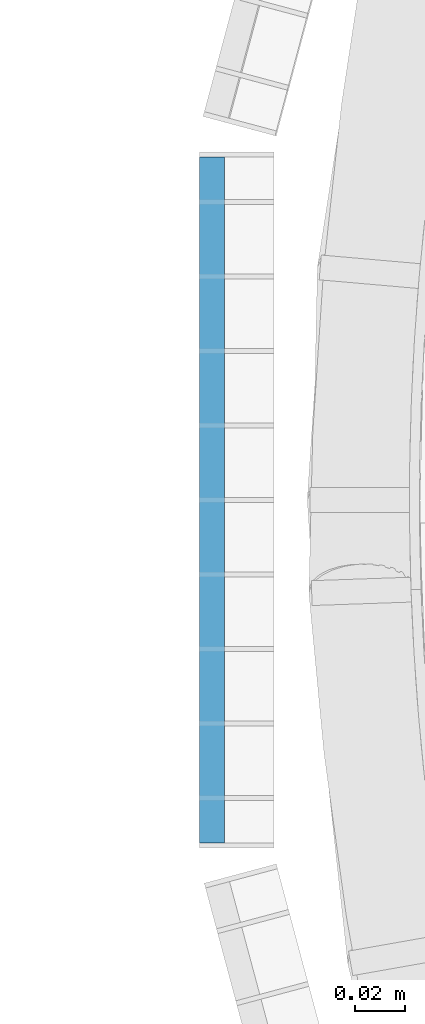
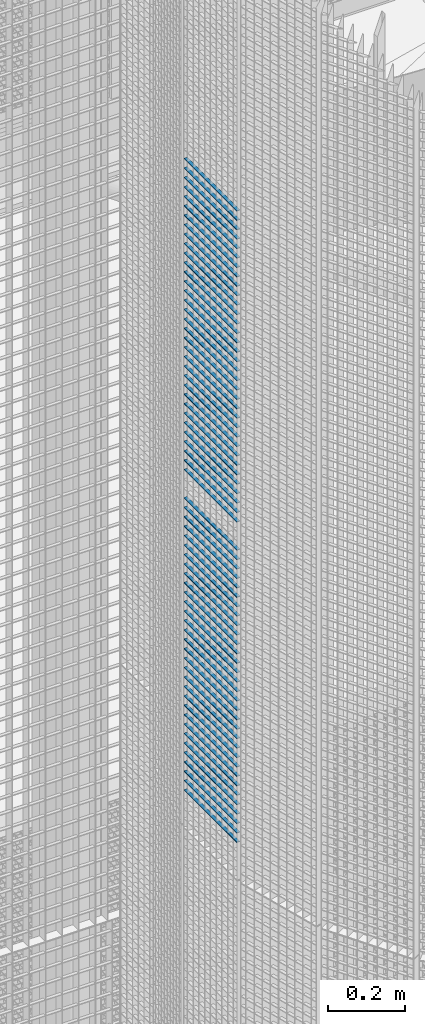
# One storey, part 195 of 1183: 66 beams, 1 element without a shape of its own.
"""IFC2X3 building model written with IfcOpenShell, lengths in millimetres."""

from ifc_helpers import new_model, si_unit, frame, origin_with_axes, origin_2d_with_axis, place, context, subcontext, project, spatial, rectangle, extrude, material, type_object, element, aggregate, save


model = new_model("IFC2X3")

# Units and contexts
model_context = context("Model", 3, precision=1e-05, world=origin_with_axes())
body_context = subcontext(model_context, "Body", "Model", "MODEL_VIEW")
ifc_project = project(units=[si_unit("LENGTHUNIT", "METRE", prefix="MILLI"), si_unit("AREAUNIT", "SQUARE_METRE"), si_unit("VOLUMEUNIT", "CUBIC_METRE"), si_unit("MASSUNIT", "GRAM", prefix="KILO"), si_unit("TIMEUNIT", "SECOND"), si_unit("PLANEANGLEUNIT", "RADIAN"), si_unit("SOLIDANGLEUNIT", "STERADIAN"), si_unit("THERMODYNAMICTEMPERATUREUNIT", "DEGREE_CELSIUS"), si_unit("LUMINOUSINTENSITYUNIT", "LUMEN")], contexts=[model_context])

# Site, building, storey
site_placement = place(None, origin_with_axes())
site = spatial("IfcSite", under=ifc_project, at=site_placement, Name="Undefined", CompositionType="ELEMENT")
building_placement = place(site_placement, origin_with_axes())
building = spatial("IfcBuilding", under=site, at=building_placement, Name="Undefined", CompositionType="ELEMENT")
storey_placement = place(building_placement, origin_with_axes())
storey = spatial("IfcBuildingStorey", under=building, at=storey_placement, Name="Undefined", CompositionType="ELEMENT", Elevation=0.0)

# Assembly, beams
assembly_placement = place(storey_placement, origin_with_axes())
assembly = element("IfcElementAssembly", 1, at=assembly_placement, inside=storey, Name="BORDURE", AssemblyPlace="NOTDEFINED", PredefinedType="NOTDEFINED")
ifc_material = material(Name="STEEL/S235JR")
beam_type = type_object("IfcBeamType", Name="PL2*10", PredefinedType="NOTDEFINED")
beam_1_placement = place(assembly_placement, frame((-1113.47999999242, 137.996003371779, 14130.0), z_axis=(-1.0, 0.0, 0.0), x_axis=(0.0, -1.0, 0.0)))
beam_1 = element("IfcBeam", 2, at=beam_1_placement, type_object=beam_type, material=ifc_material, Name="ENTRETOISE", context=body_context, shape_type="SweptSolid", body=[
    extrude(rectangle(XDim=2.0, YDim=10.0, at=origin_2d_with_axis()), frame((275.999999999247, 9.09494701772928e-13, 1.53210777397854e-14), z_axis=(-1.0, 0.0, 0.0), x_axis=(0.0, -1.0, 0.0)), (0.0, 0.0, 1.0), 276.0),
])
beam_2_placement = place(assembly_placement, frame((-1113.47999999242, 137.996003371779, 14100.0), z_axis=(-1.0, 0.0, 0.0), x_axis=(0.0, -1.0, 0.0)))
beam_2 = element("IfcBeam", 3, at=beam_2_placement, type_object=beam_type, material=ifc_material, Name="ENTRETOISE", context=body_context, shape_type="SweptSolid", body=[
    extrude(rectangle(XDim=2.0, YDim=10.0, at=origin_2d_with_axis()), frame((275.999999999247, 9.09494701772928e-13, 1.53210777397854e-14), z_axis=(-1.0, 0.0, 0.0), x_axis=(0.0, -1.0, 0.0)), (0.0, 0.0, 1.0), 276.0),
])
beam_3_placement = place(assembly_placement, frame((-1113.47999999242, 137.996003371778, 14070.0), z_axis=(-1.0, 0.0, 0.0), x_axis=(0.0, -1.0, 0.0)))
beam_3 = element("IfcBeam", 4, at=beam_3_placement, type_object=beam_type, material=ifc_material, Name="ENTRETOISE", context=body_context, shape_type="SweptSolid", body=[
    extrude(rectangle(XDim=2.0, YDim=10.0, at=origin_2d_with_axis()), frame((275.999999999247, 9.09494701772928e-13, 1.53210777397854e-14), z_axis=(-1.0, 0.0, 0.0), x_axis=(0.0, -1.0, 0.0)), (0.0, 0.0, 1.0), 276.0),
])
beam_4_placement = place(assembly_placement, frame((-1113.47999999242, 137.996003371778, 14040.0), z_axis=(-1.0, 0.0, 0.0), x_axis=(0.0, -1.0, 0.0)))
beam_4 = element("IfcBeam", 5, at=beam_4_placement, type_object=beam_type, material=ifc_material, Name="ENTRETOISE", context=body_context, shape_type="SweptSolid", body=[
    extrude(rectangle(XDim=2.0, YDim=10.0, at=origin_2d_with_axis()), frame((275.999999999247, 9.09494701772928e-13, 1.53210777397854e-14), z_axis=(-1.0, 0.0, 0.0), x_axis=(0.0, -1.0, 0.0)), (0.0, 0.0, 1.0), 276.0),
])
beam_5_placement = place(assembly_placement, frame((-1113.47999999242, 137.996003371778, 14010.0), z_axis=(-1.0, 0.0, 0.0), x_axis=(0.0, -1.0, 0.0)))
beam_5 = element("IfcBeam", 6, at=beam_5_placement, type_object=beam_type, material=ifc_material, Name="ENTRETOISE", context=body_context, shape_type="SweptSolid", body=[
    extrude(rectangle(XDim=2.0, YDim=10.0, at=origin_2d_with_axis()), frame((275.999999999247, 9.09494701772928e-13, 1.53210777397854e-14), z_axis=(-1.0, 0.0, 0.0), x_axis=(0.0, -1.0, 0.0)), (0.0, 0.0, 1.0), 276.0),
])
beam_6_placement = place(assembly_placement, frame((-1113.47999999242, 137.996003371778, 13980.0), z_axis=(-1.0, 0.0, 0.0), x_axis=(0.0, -1.0, 0.0)))
beam_6 = element("IfcBeam", 7, at=beam_6_placement, type_object=beam_type, material=ifc_material, Name="ENTRETOISE", context=body_context, shape_type="SweptSolid", body=[
    extrude(rectangle(XDim=2.0, YDim=10.0, at=origin_2d_with_axis()), frame((275.999999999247, 9.09494701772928e-13, 1.53210777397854e-14), z_axis=(-1.0, 0.0, 0.0), x_axis=(0.0, -1.0, 0.0)), (0.0, 0.0, 1.0), 276.0),
])
beam_7_placement = place(assembly_placement, frame((-1113.47999999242, 137.996003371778, 13950.0), z_axis=(-1.0, 0.0, 0.0), x_axis=(0.0, -1.0, 0.0)))
beam_7 = element("IfcBeam", 8, at=beam_7_placement, type_object=beam_type, material=ifc_material, Name="ENTRETOISE", context=body_context, shape_type="SweptSolid", body=[
    extrude(rectangle(XDim=2.0, YDim=10.0, at=origin_2d_with_axis()), frame((275.999999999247, 9.09494701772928e-13, 1.53210777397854e-14), z_axis=(-1.0, 0.0, 0.0), x_axis=(0.0, -1.0, 0.0)), (0.0, 0.0, 1.0), 276.0),
])
beam_8_placement = place(assembly_placement, frame((-1113.47999999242, 137.996003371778, 13920.0), z_axis=(-1.0, 0.0, 0.0), x_axis=(0.0, -1.0, 0.0)))
beam_8 = element("IfcBeam", 9, at=beam_8_placement, type_object=beam_type, material=ifc_material, Name="ENTRETOISE", context=body_context, shape_type="SweptSolid", body=[
    extrude(rectangle(XDim=2.0, YDim=10.0, at=origin_2d_with_axis()), frame((275.999999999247, 9.09494701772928e-13, 1.53210777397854e-14), z_axis=(-1.0, 0.0, 0.0), x_axis=(0.0, -1.0, 0.0)), (0.0, 0.0, 1.0), 276.0),
])
beam_9_placement = place(assembly_placement, frame((-1113.47999999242, 137.996003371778, 13890.0), z_axis=(-1.0, 0.0, 0.0), x_axis=(0.0, -1.0, 0.0)))
beam_9 = element("IfcBeam", 10, at=beam_9_placement, type_object=beam_type, material=ifc_material, Name="ENTRETOISE", context=body_context, shape_type="SweptSolid", body=[
    extrude(rectangle(XDim=2.0, YDim=10.0, at=origin_2d_with_axis()), frame((275.999999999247, 9.09494701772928e-13, 1.53210777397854e-14), z_axis=(-1.0, 0.0, 0.0), x_axis=(0.0, -1.0, 0.0)), (0.0, 0.0, 1.0), 276.0),
])
beam_10_placement = place(assembly_placement, frame((-1113.47999999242, 137.996003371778, 13860.0), z_axis=(-1.0, 0.0, 0.0), x_axis=(0.0, -1.0, 0.0)))
beam_10 = element("IfcBeam", 11, at=beam_10_placement, type_object=beam_type, material=ifc_material, Name="ENTRETOISE", context=body_context, shape_type="SweptSolid", body=[
    extrude(rectangle(XDim=2.0, YDim=10.0, at=origin_2d_with_axis()), frame((275.999999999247, 9.09494701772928e-13, 1.53210777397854e-14), z_axis=(-1.0, 0.0, 0.0), x_axis=(0.0, -1.0, 0.0)), (0.0, 0.0, 1.0), 276.0),
])
beam_11_placement = place(assembly_placement, frame((-1113.47999999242, 137.996003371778, 13830.0), z_axis=(-1.0, 0.0, 0.0), x_axis=(0.0, -1.0, 0.0)))
beam_11 = element("IfcBeam", 12, at=beam_11_placement, type_object=beam_type, material=ifc_material, Name="ENTRETOISE", context=body_context, shape_type="SweptSolid", body=[
    extrude(rectangle(XDim=2.0, YDim=10.0, at=origin_2d_with_axis()), frame((275.999999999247, 9.09494701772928e-13, 1.53210777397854e-14), z_axis=(-1.0, 0.0, 0.0), x_axis=(0.0, -1.0, 0.0)), (0.0, 0.0, 1.0), 276.0),
])
beam_12_placement = place(assembly_placement, frame((-1113.47999999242, 137.996003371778, 13800.0), z_axis=(-1.0, 0.0, 0.0), x_axis=(0.0, -1.0, 0.0)))
beam_12 = element("IfcBeam", 13, at=beam_12_placement, type_object=beam_type, material=ifc_material, Name="ENTRETOISE", context=body_context, shape_type="SweptSolid", body=[
    extrude(rectangle(XDim=2.0, YDim=10.0, at=origin_2d_with_axis()), frame((275.999999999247, 9.09494701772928e-13, 1.53210777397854e-14), z_axis=(-1.0, 0.0, 0.0), x_axis=(0.0, -1.0, 0.0)), (0.0, 0.0, 1.0), 276.0),
])
beam_13_placement = place(assembly_placement, frame((-1113.47999999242, 137.996003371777, 13770.0), z_axis=(-1.0, 0.0, 0.0), x_axis=(0.0, -1.0, 0.0)))
beam_13 = element("IfcBeam", 14, at=beam_13_placement, type_object=beam_type, material=ifc_material, Name="ENTRETOISE", context=body_context, shape_type="SweptSolid", body=[
    extrude(rectangle(XDim=2.0, YDim=10.0, at=origin_2d_with_axis()), frame((275.999999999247, 9.09494701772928e-13, 1.53210777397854e-14), z_axis=(-1.0, 0.0, 0.0), x_axis=(0.0, -1.0, 0.0)), (0.0, 0.0, 1.0), 276.0),
])
beam_14_placement = place(assembly_placement, frame((-1113.47999999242, 137.996003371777, 13740.0), z_axis=(-1.0, 0.0, 0.0), x_axis=(0.0, -1.0, 0.0)))
beam_14 = element("IfcBeam", 15, at=beam_14_placement, type_object=beam_type, material=ifc_material, Name="ENTRETOISE", context=body_context, shape_type="SweptSolid", body=[
    extrude(rectangle(XDim=2.0, YDim=10.0, at=origin_2d_with_axis()), frame((275.999999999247, 9.09494701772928e-13, 1.53210777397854e-14), z_axis=(-1.0, 0.0, 0.0), x_axis=(0.0, -1.0, 0.0)), (0.0, 0.0, 1.0), 276.0),
])
beam_15_placement = place(assembly_placement, frame((-1113.47999999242, 137.996003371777, 13710.0), z_axis=(-1.0, 0.0, 0.0), x_axis=(0.0, -1.0, 0.0)))
beam_15 = element("IfcBeam", 16, at=beam_15_placement, type_object=beam_type, material=ifc_material, Name="ENTRETOISE", context=body_context, shape_type="SweptSolid", body=[
    extrude(rectangle(XDim=2.0, YDim=10.0, at=origin_2d_with_axis()), frame((275.999999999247, 9.09494701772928e-13, 1.53210777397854e-14), z_axis=(-1.0, 0.0, 0.0), x_axis=(0.0, -1.0, 0.0)), (0.0, 0.0, 1.0), 276.0),
])
beam_16_placement = place(assembly_placement, frame((-1113.47999999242, 137.996003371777, 13680.0), z_axis=(-1.0, 0.0, 0.0), x_axis=(0.0, -1.0, 0.0)))
beam_16 = element("IfcBeam", 17, at=beam_16_placement, type_object=beam_type, material=ifc_material, Name="ENTRETOISE", context=body_context, shape_type="SweptSolid", body=[
    extrude(rectangle(XDim=2.0, YDim=10.0, at=origin_2d_with_axis()), frame((275.999999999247, 9.09494701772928e-13, 1.53210777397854e-14), z_axis=(-1.0, 0.0, 0.0), x_axis=(0.0, -1.0, 0.0)), (0.0, 0.0, 1.0), 276.0),
])
beam_17_placement = place(assembly_placement, frame((-1113.47999999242, 137.996003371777, 13650.0), z_axis=(-1.0, 0.0, 0.0), x_axis=(0.0, -1.0, 0.0)))
beam_17 = element("IfcBeam", 18, at=beam_17_placement, type_object=beam_type, material=ifc_material, Name="ENTRETOISE", context=body_context, shape_type="SweptSolid", body=[
    extrude(rectangle(XDim=2.0, YDim=10.0, at=origin_2d_with_axis()), frame((275.999999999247, 9.09494701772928e-13, 1.53210777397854e-14), z_axis=(-1.0, 0.0, 0.0), x_axis=(0.0, -1.0, 0.0)), (0.0, 0.0, 1.0), 276.0),
])
beam_18_placement = place(assembly_placement, frame((-1113.47999999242, 137.996003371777, 13620.0), z_axis=(-1.0, 0.0, 0.0), x_axis=(0.0, -1.0, 0.0)))
beam_18 = element("IfcBeam", 19, at=beam_18_placement, type_object=beam_type, material=ifc_material, Name="ENTRETOISE", context=body_context, shape_type="SweptSolid", body=[
    extrude(rectangle(XDim=2.0, YDim=10.0, at=origin_2d_with_axis()), frame((275.999999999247, 9.09494701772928e-13, 1.53210777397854e-14), z_axis=(-1.0, 0.0, 0.0), x_axis=(0.0, -1.0, 0.0)), (0.0, 0.0, 1.0), 276.0),
])
beam_19_placement = place(assembly_placement, frame((-1113.47999999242, 137.996003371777, 13590.0), z_axis=(-1.0, 0.0, 0.0), x_axis=(0.0, -1.0, 0.0)))
beam_19 = element("IfcBeam", 20, at=beam_19_placement, type_object=beam_type, material=ifc_material, Name="ENTRETOISE", context=body_context, shape_type="SweptSolid", body=[
    extrude(rectangle(XDim=2.0, YDim=10.0, at=origin_2d_with_axis()), frame((275.999999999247, 9.09494701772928e-13, 1.53210777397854e-14), z_axis=(-1.0, 0.0, 0.0), x_axis=(0.0, -1.0, 0.0)), (0.0, 0.0, 1.0), 276.0),
])
beam_20_placement = place(assembly_placement, frame((-1113.47999999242, 137.996003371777, 13560.0), z_axis=(-1.0, 0.0, 0.0), x_axis=(0.0, -1.0, 0.0)))
beam_20 = element("IfcBeam", 21, at=beam_20_placement, type_object=beam_type, material=ifc_material, Name="ENTRETOISE", context=body_context, shape_type="SweptSolid", body=[
    extrude(rectangle(XDim=2.0, YDim=10.0, at=origin_2d_with_axis()), frame((275.999999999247, 9.09494701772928e-13, 1.53210777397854e-14), z_axis=(-1.0, 0.0, 0.0), x_axis=(0.0, -1.0, 0.0)), (0.0, 0.0, 1.0), 276.0),
])
beam_21_placement = place(assembly_placement, frame((-1113.47999999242, 137.996003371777, 13530.0), z_axis=(-1.0, 0.0, 0.0), x_axis=(0.0, -1.0, 0.0)))
beam_21 = element("IfcBeam", 22, at=beam_21_placement, type_object=beam_type, material=ifc_material, Name="ENTRETOISE", context=body_context, shape_type="SweptSolid", body=[
    extrude(rectangle(XDim=2.0, YDim=10.0, at=origin_2d_with_axis()), frame((275.999999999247, 9.09494701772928e-13, 1.53210777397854e-14), z_axis=(-1.0, 0.0, 0.0), x_axis=(0.0, -1.0, 0.0)), (0.0, 0.0, 1.0), 276.0),
])
beam_22_placement = place(assembly_placement, frame((-1113.47999999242, 137.996003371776, 13500.0), z_axis=(-1.0, 0.0, 0.0), x_axis=(0.0, -1.0, 0.0)))
beam_22 = element("IfcBeam", 23, at=beam_22_placement, type_object=beam_type, material=ifc_material, Name="ENTRETOISE", context=body_context, shape_type="SweptSolid", body=[
    extrude(rectangle(XDim=2.0, YDim=10.0, at=origin_2d_with_axis()), frame((275.999999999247, 9.09494701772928e-13, 1.53210777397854e-14), z_axis=(-1.0, 0.0, 0.0), x_axis=(0.0, -1.0, 0.0)), (0.0, 0.0, 1.0), 276.0),
])
beam_23_placement = place(assembly_placement, frame((-1113.47999999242, 137.996003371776, 13470.0), z_axis=(-1.0, 0.0, 0.0), x_axis=(0.0, -1.0, 0.0)))
beam_23 = element("IfcBeam", 24, at=beam_23_placement, type_object=beam_type, material=ifc_material, Name="ENTRETOISE", context=body_context, shape_type="SweptSolid", body=[
    extrude(rectangle(XDim=2.0, YDim=10.0, at=origin_2d_with_axis()), frame((275.999999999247, 9.09494701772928e-13, 1.53210777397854e-14), z_axis=(-1.0, 0.0, 0.0), x_axis=(0.0, -1.0, 0.0)), (0.0, 0.0, 1.0), 276.0),
])
beam_24_placement = place(assembly_placement, frame((-1113.47999999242, 137.996003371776, 13440.0), z_axis=(-1.0, 0.0, 0.0), x_axis=(0.0, -1.0, 0.0)))
beam_24 = element("IfcBeam", 25, at=beam_24_placement, type_object=beam_type, material=ifc_material, Name="ENTRETOISE", context=body_context, shape_type="SweptSolid", body=[
    extrude(rectangle(XDim=2.0, YDim=10.0, at=origin_2d_with_axis()), frame((275.999999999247, 9.09494701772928e-13, 1.53210777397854e-14), z_axis=(-1.0, 0.0, 0.0), x_axis=(0.0, -1.0, 0.0)), (0.0, 0.0, 1.0), 276.0),
])
beam_25_placement = place(assembly_placement, frame((-1113.47999999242, 137.996003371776, 13410.0), z_axis=(-1.0, 0.0, 0.0), x_axis=(0.0, -1.0, 0.0)))
beam_25 = element("IfcBeam", 26, at=beam_25_placement, type_object=beam_type, material=ifc_material, Name="ENTRETOISE", context=body_context, shape_type="SweptSolid", body=[
    extrude(rectangle(XDim=2.0, YDim=10.0, at=origin_2d_with_axis()), frame((275.999999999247, 9.09494701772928e-13, 1.53210777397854e-14), z_axis=(-1.0, 0.0, 0.0), x_axis=(0.0, -1.0, 0.0)), (0.0, 0.0, 1.0), 276.0),
])
beam_26_placement = place(assembly_placement, frame((-1113.47999999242, 137.996003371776, 13380.0), z_axis=(-1.0, 0.0, 0.0), x_axis=(0.0, -1.0, 0.0)))
beam_26 = element("IfcBeam", 27, at=beam_26_placement, type_object=beam_type, material=ifc_material, Name="ENTRETOISE", context=body_context, shape_type="SweptSolid", body=[
    extrude(rectangle(XDim=2.0, YDim=10.0, at=origin_2d_with_axis()), frame((275.999999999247, 9.09494701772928e-13, 1.53210777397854e-14), z_axis=(-1.0, 0.0, 0.0), x_axis=(0.0, -1.0, 0.0)), (0.0, 0.0, 1.0), 276.0),
])
beam_27_placement = place(assembly_placement, frame((-1113.47999999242, 137.996003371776, 13350.0), z_axis=(-1.0, 0.0, 0.0), x_axis=(0.0, -1.0, 0.0)))
beam_27 = element("IfcBeam", 28, at=beam_27_placement, type_object=beam_type, material=ifc_material, Name="ENTRETOISE", context=body_context, shape_type="SweptSolid", body=[
    extrude(rectangle(XDim=2.0, YDim=10.0, at=origin_2d_with_axis()), frame((275.999999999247, 9.09494701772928e-13, 1.53210777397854e-14), z_axis=(-1.0, 0.0, 0.0), x_axis=(0.0, -1.0, 0.0)), (0.0, 0.0, 1.0), 276.0),
])
beam_28_placement = place(assembly_placement, frame((-1113.47999999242, 137.996003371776, 13320.0), z_axis=(-1.0, 0.0, 0.0), x_axis=(0.0, -1.0, 0.0)))
beam_28 = element("IfcBeam", 29, at=beam_28_placement, type_object=beam_type, material=ifc_material, Name="ENTRETOISE", context=body_context, shape_type="SweptSolid", body=[
    extrude(rectangle(XDim=2.0, YDim=10.0, at=origin_2d_with_axis()), frame((275.999999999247, 9.09494701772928e-13, 1.53210777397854e-14), z_axis=(-1.0, 0.0, 0.0), x_axis=(0.0, -1.0, 0.0)), (0.0, 0.0, 1.0), 276.0),
])
beam_29_placement = place(assembly_placement, frame((-1113.47999999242, 137.996003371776, 13290.0), z_axis=(-1.0, 0.0, 0.0), x_axis=(0.0, -1.0, 0.0)))
beam_29 = element("IfcBeam", 30, at=beam_29_placement, type_object=beam_type, material=ifc_material, Name="ENTRETOISE", context=body_context, shape_type="SweptSolid", body=[
    extrude(rectangle(XDim=2.0, YDim=10.0, at=origin_2d_with_axis()), frame((275.999999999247, 9.09494701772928e-13, 1.53210777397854e-14), z_axis=(-1.0, 0.0, 0.0), x_axis=(0.0, -1.0, 0.0)), (0.0, 0.0, 1.0), 276.0),
])
beam_30_placement = place(assembly_placement, frame((-1113.47999999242, 137.996003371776, 13260.0), z_axis=(-1.0, 0.0, 0.0), x_axis=(0.0, -1.0, 0.0)))
beam_30 = element("IfcBeam", 31, at=beam_30_placement, type_object=beam_type, material=ifc_material, Name="ENTRETOISE", context=body_context, shape_type="SweptSolid", body=[
    extrude(rectangle(XDim=2.0, YDim=10.0, at=origin_2d_with_axis()), frame((275.999999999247, 9.09494701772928e-13, 1.53210777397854e-14), z_axis=(-1.0, 0.0, 0.0), x_axis=(0.0, -1.0, 0.0)), (0.0, 0.0, 1.0), 276.0),
])
beam_31_placement = place(assembly_placement, frame((-1113.47999999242, 137.996003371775, 13230.0), z_axis=(-1.0, 0.0, 0.0), x_axis=(0.0, -1.0, 0.0)))
beam_31 = element("IfcBeam", 32, at=beam_31_placement, type_object=beam_type, material=ifc_material, Name="ENTRETOISE", context=body_context, shape_type="SweptSolid", body=[
    extrude(rectangle(XDim=2.0, YDim=10.0, at=origin_2d_with_axis()), frame((275.999999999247, 9.09494701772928e-13, 1.53210777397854e-14), z_axis=(-1.0, 0.0, 0.0), x_axis=(0.0, -1.0, 0.0)), (0.0, 0.0, 1.0), 276.0),
])
beam_32_placement = place(assembly_placement, frame((-1113.47999999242, 137.996003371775, 13200.0), z_axis=(-1.0, 0.0, 0.0), x_axis=(0.0, -1.0, 0.0)))
beam_32 = element("IfcBeam", 33, at=beam_32_placement, type_object=beam_type, material=ifc_material, Name="ENTRETOISE", context=body_context, shape_type="SweptSolid", body=[
    extrude(rectangle(XDim=2.0, YDim=10.0, at=origin_2d_with_axis()), frame((275.999999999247, 9.09494701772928e-13, 1.53210777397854e-14), z_axis=(-1.0, 0.0, 0.0), x_axis=(0.0, -1.0, 0.0)), (0.0, 0.0, 1.0), 276.0),
])
beam_33_placement = place(assembly_placement, frame((-1113.47999999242, 137.996003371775, 13170.0), z_axis=(-1.0, 0.0, 0.0), x_axis=(0.0, -1.0, 0.0)))
beam_33 = element("IfcBeam", 34, at=beam_33_placement, type_object=beam_type, material=ifc_material, Name="ENTRETOISE", context=body_context, shape_type="SweptSolid", body=[
    extrude(rectangle(XDim=2.0, YDim=10.0, at=origin_2d_with_axis()), frame((275.999999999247, 9.09494701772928e-13, 1.53210777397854e-14), z_axis=(-1.0, 0.0, 0.0), x_axis=(0.0, -1.0, 0.0)), (0.0, 0.0, 1.0), 276.0),
])
beam_34_placement = place(assembly_placement, frame((-1113.47999999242, 137.996003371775, 13140.0), z_axis=(-1.0, 0.0, 0.0), x_axis=(0.0, -1.0, 0.0)))
beam_34 = element("IfcBeam", 35, at=beam_34_placement, type_object=beam_type, material=ifc_material, Name="ENTRETOISE", context=body_context, shape_type="SweptSolid", body=[
    extrude(rectangle(XDim=2.0, YDim=10.0, at=origin_2d_with_axis()), frame((275.999999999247, 9.09494701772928e-13, 1.53210777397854e-14), z_axis=(-1.0, 0.0, 0.0), x_axis=(0.0, -1.0, 0.0)), (0.0, 0.0, 1.0), 276.0),
])
beam_35_placement = place(assembly_placement, frame((-1113.47999999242, 137.996003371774, 12720.0), z_axis=(-1.0, 0.0, 0.0), x_axis=(0.0, -1.0, 0.0)))
beam_35 = element("IfcBeam", 36, at=beam_35_placement, type_object=beam_type, material=ifc_material, Name="ENTRETOISE", context=body_context, shape_type="SweptSolid", body=[
    extrude(rectangle(XDim=2.0, YDim=10.0, at=origin_2d_with_axis()), frame((275.999999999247, 9.09494701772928e-13, 1.53210777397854e-14), z_axis=(-1.0, 0.0, 0.0), x_axis=(0.0, -1.0, 0.0)), (0.0, 0.0, 1.0), 276.0),
])
beam_36_placement = place(assembly_placement, frame((-1113.47999999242, 137.996003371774, 12690.0), z_axis=(-1.0, 0.0, 0.0), x_axis=(0.0, -1.0, 0.0)))
beam_36 = element("IfcBeam", 37, at=beam_36_placement, type_object=beam_type, material=ifc_material, Name="ENTRETOISE", context=body_context, shape_type="SweptSolid", body=[
    extrude(rectangle(XDim=2.0, YDim=10.0, at=origin_2d_with_axis()), frame((275.999999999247, 9.09494701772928e-13, 1.53210777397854e-14), z_axis=(-1.0, 0.0, 0.0), x_axis=(0.0, -1.0, 0.0)), (0.0, 0.0, 1.0), 276.0),
])
beam_37_placement = place(assembly_placement, frame((-1113.47999999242, 137.996003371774, 12750.0), z_axis=(-1.0, 0.0, 0.0), x_axis=(0.0, -1.0, 0.0)))
beam_37 = element("IfcBeam", 38, at=beam_37_placement, type_object=beam_type, material=ifc_material, Name="ENTRETOISE", context=body_context, shape_type="SweptSolid", body=[
    extrude(rectangle(XDim=2.0, YDim=10.0, at=origin_2d_with_axis()), frame((275.999999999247, 9.09494701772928e-13, 1.53210777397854e-14), z_axis=(-1.0, 0.0, 0.0), x_axis=(0.0, -1.0, 0.0)), (0.0, 0.0, 1.0), 276.0),
])
beam_38_placement = place(assembly_placement, frame((-1113.47999999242, 137.996003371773, 12660.0), z_axis=(-1.0, 0.0, 0.0), x_axis=(0.0, -1.0, 0.0)))
beam_38 = element("IfcBeam", 39, at=beam_38_placement, type_object=beam_type, material=ifc_material, Name="ENTRETOISE", context=body_context, shape_type="SweptSolid", body=[
    extrude(rectangle(XDim=2.0, YDim=10.0, at=origin_2d_with_axis()), frame((275.999999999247, 9.09494701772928e-13, 1.53210777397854e-14), z_axis=(-1.0, 0.0, 0.0), x_axis=(0.0, -1.0, 0.0)), (0.0, 0.0, 1.0), 276.0),
])
beam_39_placement = place(assembly_placement, frame((-1113.47999999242, 137.996003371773, 12630.0), z_axis=(-1.0, 0.0, 0.0), x_axis=(0.0, -1.0, 0.0)))
beam_39 = element("IfcBeam", 40, at=beam_39_placement, type_object=beam_type, material=ifc_material, Name="ENTRETOISE", context=body_context, shape_type="SweptSolid", body=[
    extrude(rectangle(XDim=2.0, YDim=10.0, at=origin_2d_with_axis()), frame((275.999999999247, 9.09494701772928e-13, 1.53210777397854e-14), z_axis=(-1.0, 0.0, 0.0), x_axis=(0.0, -1.0, 0.0)), (0.0, 0.0, 1.0), 276.0),
])
beam_40_placement = place(assembly_placement, frame((-1113.47999999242, 137.996003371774, 12780.0), z_axis=(-1.0, 0.0, 0.0), x_axis=(0.0, -1.0, 0.0)))
beam_40 = element("IfcBeam", 41, at=beam_40_placement, type_object=beam_type, material=ifc_material, Name="ENTRETOISE", context=body_context, shape_type="SweptSolid", body=[
    extrude(rectangle(XDim=2.0, YDim=10.0, at=origin_2d_with_axis()), frame((275.999999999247, 9.09494701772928e-13, 1.53210777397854e-14), z_axis=(-1.0, 0.0, 0.0), x_axis=(0.0, -1.0, 0.0)), (0.0, 0.0, 1.0), 276.0),
])
beam_41_placement = place(assembly_placement, frame((-1113.47999999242, 137.996003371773, 12600.0), z_axis=(-1.0, 0.0, 0.0), x_axis=(0.0, -1.0, 0.0)))
beam_41 = element("IfcBeam", 42, at=beam_41_placement, type_object=beam_type, material=ifc_material, Name="ENTRETOISE", context=body_context, shape_type="SweptSolid", body=[
    extrude(rectangle(XDim=2.0, YDim=10.0, at=origin_2d_with_axis()), frame((275.999999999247, 9.09494701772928e-13, 1.53210777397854e-14), z_axis=(-1.0, 0.0, 0.0), x_axis=(0.0, -1.0, 0.0)), (0.0, 0.0, 1.0), 276.0),
])
beam_42_placement = place(assembly_placement, frame((-1113.47999999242, 137.996003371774, 12810.0), z_axis=(-1.0, 0.0, 0.0), x_axis=(0.0, -1.0, 0.0)))
beam_42 = element("IfcBeam", 43, at=beam_42_placement, type_object=beam_type, material=ifc_material, Name="ENTRETOISE", context=body_context, shape_type="SweptSolid", body=[
    extrude(rectangle(XDim=2.0, YDim=10.0, at=origin_2d_with_axis()), frame((275.999999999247, 9.09494701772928e-13, 1.53210777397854e-14), z_axis=(-1.0, 0.0, 0.0), x_axis=(0.0, -1.0, 0.0)), (0.0, 0.0, 1.0), 276.0),
])
beam_43_placement = place(assembly_placement, frame((-1113.47999999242, 137.996003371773, 12570.0), z_axis=(-1.0, 0.0, 0.0), x_axis=(0.0, -1.0, 0.0)))
beam_43 = element("IfcBeam", 44, at=beam_43_placement, type_object=beam_type, material=ifc_material, Name="ENTRETOISE", context=body_context, shape_type="SweptSolid", body=[
    extrude(rectangle(XDim=2.0, YDim=10.0, at=origin_2d_with_axis()), frame((275.999999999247, 9.09494701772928e-13, 1.53210777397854e-14), z_axis=(-1.0, 0.0, 0.0), x_axis=(0.0, -1.0, 0.0)), (0.0, 0.0, 1.0), 276.0),
])
beam_44_placement = place(assembly_placement, frame((-1113.47999999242, 137.996003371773, 12540.0), z_axis=(-1.0, 0.0, 0.0), x_axis=(0.0, -1.0, 0.0)))
beam_44 = element("IfcBeam", 45, at=beam_44_placement, type_object=beam_type, material=ifc_material, Name="ENTRETOISE", context=body_context, shape_type="SweptSolid", body=[
    extrude(rectangle(XDim=2.0, YDim=10.0, at=origin_2d_with_axis()), frame((275.999999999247, 9.09494701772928e-13, 1.53210777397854e-14), z_axis=(-1.0, 0.0, 0.0), x_axis=(0.0, -1.0, 0.0)), (0.0, 0.0, 1.0), 276.0),
])
beam_45_placement = place(assembly_placement, frame((-1113.47999999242, 137.996003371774, 12840.0), z_axis=(-1.0, 0.0, 0.0), x_axis=(0.0, -1.0, 0.0)))
beam_45 = element("IfcBeam", 46, at=beam_45_placement, type_object=beam_type, material=ifc_material, Name="ENTRETOISE", context=body_context, shape_type="SweptSolid", body=[
    extrude(rectangle(XDim=2.0, YDim=10.0, at=origin_2d_with_axis()), frame((275.999999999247, 9.09494701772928e-13, 1.53210777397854e-14), z_axis=(-1.0, 0.0, 0.0), x_axis=(0.0, -1.0, 0.0)), (0.0, 0.0, 1.0), 276.0),
])
beam_46_placement = place(assembly_placement, frame((-1113.47999999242, 137.996003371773, 12510.0), z_axis=(-1.0, 0.0, 0.0), x_axis=(0.0, -1.0, 0.0)))
beam_46 = element("IfcBeam", 47, at=beam_46_placement, type_object=beam_type, material=ifc_material, Name="ENTRETOISE", context=body_context, shape_type="SweptSolid", body=[
    extrude(rectangle(XDim=2.0, YDim=10.0, at=origin_2d_with_axis()), frame((275.999999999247, 9.09494701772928e-13, 1.53210777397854e-14), z_axis=(-1.0, 0.0, 0.0), x_axis=(0.0, -1.0, 0.0)), (0.0, 0.0, 1.0), 276.0),
])
beam_47_placement = place(assembly_placement, frame((-1113.47999999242, 137.996003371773, 12480.0), z_axis=(-1.0, 0.0, 0.0), x_axis=(0.0, -1.0, 0.0)))
beam_47 = element("IfcBeam", 48, at=beam_47_placement, type_object=beam_type, material=ifc_material, Name="ENTRETOISE", context=body_context, shape_type="SweptSolid", body=[
    extrude(rectangle(XDim=2.0, YDim=10.0, at=origin_2d_with_axis()), frame((275.999999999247, 9.09494701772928e-13, 1.53210777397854e-14), z_axis=(-1.0, 0.0, 0.0), x_axis=(0.0, -1.0, 0.0)), (0.0, 0.0, 1.0), 276.0),
])
beam_48_placement = place(assembly_placement, frame((-1113.47999999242, 137.996003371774, 12870.0), z_axis=(-1.0, 0.0, 0.0), x_axis=(0.0, -1.0, 0.0)))
beam_48 = element("IfcBeam", 49, at=beam_48_placement, type_object=beam_type, material=ifc_material, Name="ENTRETOISE", context=body_context, shape_type="SweptSolid", body=[
    extrude(rectangle(XDim=2.0, YDim=10.0, at=origin_2d_with_axis()), frame((275.999999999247, 9.09494701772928e-13, 1.53210777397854e-14), z_axis=(-1.0, 0.0, 0.0), x_axis=(0.0, -1.0, 0.0)), (0.0, 0.0, 1.0), 276.0),
])
beam_49_placement = place(assembly_placement, frame((-1113.47999999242, 137.996003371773, 12450.0), z_axis=(-1.0, 0.0, 0.0), x_axis=(0.0, -1.0, 0.0)))
beam_49 = element("IfcBeam", 50, at=beam_49_placement, type_object=beam_type, material=ifc_material, Name="ENTRETOISE", context=body_context, shape_type="SweptSolid", body=[
    extrude(rectangle(XDim=2.0, YDim=10.0, at=origin_2d_with_axis()), frame((275.999999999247, 9.09494701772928e-13, 1.53210777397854e-14), z_axis=(-1.0, 0.0, 0.0), x_axis=(0.0, -1.0, 0.0)), (0.0, 0.0, 1.0), 276.0),
])
beam_50_placement = place(assembly_placement, frame((-1113.47999999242, 137.996003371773, 12420.0), z_axis=(-1.0, 0.0, 0.0), x_axis=(0.0, -1.0, 0.0)))
beam_50 = element("IfcBeam", 51, at=beam_50_placement, type_object=beam_type, material=ifc_material, Name="ENTRETOISE", context=body_context, shape_type="SweptSolid", body=[
    extrude(rectangle(XDim=2.0, YDim=10.0, at=origin_2d_with_axis()), frame((275.999999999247, 9.09494701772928e-13, 1.53210777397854e-14), z_axis=(-1.0, 0.0, 0.0), x_axis=(0.0, -1.0, 0.0)), (0.0, 0.0, 1.0), 276.0),
])
beam_51_placement = place(assembly_placement, frame((-1113.47999999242, 137.996003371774, 12900.0), z_axis=(-1.0, 0.0, 0.0), x_axis=(0.0, -1.0, 0.0)))
beam_51 = element("IfcBeam", 52, at=beam_51_placement, type_object=beam_type, material=ifc_material, Name="ENTRETOISE", context=body_context, shape_type="SweptSolid", body=[
    extrude(rectangle(XDim=2.0, YDim=10.0, at=origin_2d_with_axis()), frame((275.999999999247, 9.09494701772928e-13, 1.53210777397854e-14), z_axis=(-1.0, 0.0, 0.0), x_axis=(0.0, -1.0, 0.0)), (0.0, 0.0, 1.0), 276.0),
])
beam_52_placement = place(assembly_placement, frame((-1113.47999999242, 137.996003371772, 12390.0), z_axis=(-1.0, 0.0, 0.0), x_axis=(0.0, -1.0, 0.0)))
beam_52 = element("IfcBeam", 53, at=beam_52_placement, type_object=beam_type, material=ifc_material, Name="ENTRETOISE", context=body_context, shape_type="SweptSolid", body=[
    extrude(rectangle(XDim=2.0, YDim=10.0, at=origin_2d_with_axis()), frame((275.999999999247, 9.09494701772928e-13, 1.53210777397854e-14), z_axis=(-1.0, 0.0, 0.0), x_axis=(0.0, -1.0, 0.0)), (0.0, 0.0, 1.0), 276.0),
])
beam_53_placement = place(assembly_placement, frame((-1113.47999999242, 137.996003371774, 12930.0), z_axis=(-1.0, 0.0, 0.0), x_axis=(0.0, -1.0, 0.0)))
beam_53 = element("IfcBeam", 54, at=beam_53_placement, type_object=beam_type, material=ifc_material, Name="ENTRETOISE", context=body_context, shape_type="SweptSolid", body=[
    extrude(rectangle(XDim=2.0, YDim=10.0, at=origin_2d_with_axis()), frame((275.999999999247, 9.09494701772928e-13, 1.53210777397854e-14), z_axis=(-1.0, 0.0, 0.0), x_axis=(0.0, -1.0, 0.0)), (0.0, 0.0, 1.0), 276.0),
])
beam_54_placement = place(assembly_placement, frame((-1113.47999999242, 137.996003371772, 12360.0), z_axis=(-1.0, 0.0, 0.0), x_axis=(0.0, -1.0, 0.0)))
beam_54 = element("IfcBeam", 55, at=beam_54_placement, type_object=beam_type, material=ifc_material, Name="ENTRETOISE", context=body_context, shape_type="SweptSolid", body=[
    extrude(rectangle(XDim=2.0, YDim=10.0, at=origin_2d_with_axis()), frame((275.999999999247, 9.09494701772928e-13, 1.53210777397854e-14), z_axis=(-1.0, 0.0, 0.0), x_axis=(0.0, -1.0, 0.0)), (0.0, 0.0, 1.0), 276.0),
])
beam_55_placement = place(assembly_placement, frame((-1113.47999999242, 137.996003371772, 12330.0), z_axis=(-1.0, 0.0, 0.0), x_axis=(0.0, -1.0, 0.0)))
beam_55 = element("IfcBeam", 56, at=beam_55_placement, type_object=beam_type, material=ifc_material, Name="ENTRETOISE", context=body_context, shape_type="SweptSolid", body=[
    extrude(rectangle(XDim=2.0, YDim=10.0, at=origin_2d_with_axis()), frame((275.999999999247, 9.09494701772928e-13, 1.53210777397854e-14), z_axis=(-1.0, 0.0, 0.0), x_axis=(0.0, -1.0, 0.0)), (0.0, 0.0, 1.0), 276.0),
])
beam_56_placement = place(assembly_placement, frame((-1113.47999999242, 137.996003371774, 12960.0), z_axis=(-1.0, 0.0, 0.0), x_axis=(0.0, -1.0, 0.0)))
beam_56 = element("IfcBeam", 57, at=beam_56_placement, type_object=beam_type, material=ifc_material, Name="ENTRETOISE", context=body_context, shape_type="SweptSolid", body=[
    extrude(rectangle(XDim=2.0, YDim=10.0, at=origin_2d_with_axis()), frame((275.999999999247, 9.09494701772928e-13, 1.53210777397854e-14), z_axis=(-1.0, 0.0, 0.0), x_axis=(0.0, -1.0, 0.0)), (0.0, 0.0, 1.0), 276.0),
])
beam_57_placement = place(assembly_placement, frame((-1113.47999999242, 137.996003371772, 12300.0), z_axis=(-1.0, 0.0, 0.0), x_axis=(0.0, -1.0, 0.0)))
beam_57 = element("IfcBeam", 58, at=beam_57_placement, type_object=beam_type, material=ifc_material, Name="ENTRETOISE", context=body_context, shape_type="SweptSolid", body=[
    extrude(rectangle(XDim=2.0, YDim=10.0, at=origin_2d_with_axis()), frame((275.999999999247, 9.09494701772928e-13, 1.53210777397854e-14), z_axis=(-1.0, 0.0, 0.0), x_axis=(0.0, -1.0, 0.0)), (0.0, 0.0, 1.0), 276.0),
])
beam_58_placement = place(assembly_placement, frame((-1113.47999999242, 137.996003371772, 12270.0), z_axis=(-1.0, 0.0, 0.0), x_axis=(0.0, -1.0, 0.0)))
beam_58 = element("IfcBeam", 59, at=beam_58_placement, type_object=beam_type, material=ifc_material, Name="ENTRETOISE", context=body_context, shape_type="SweptSolid", body=[
    extrude(rectangle(XDim=2.0, YDim=10.0, at=origin_2d_with_axis()), frame((275.999999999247, 9.09494701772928e-13, 1.53210777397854e-14), z_axis=(-1.0, 0.0, 0.0), x_axis=(0.0, -1.0, 0.0)), (0.0, 0.0, 1.0), 276.0),
])
beam_59_placement = place(assembly_placement, frame((-1113.47999999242, 137.996003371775, 12990.0), z_axis=(-1.0, 0.0, 0.0), x_axis=(0.0, -1.0, 0.0)))
beam_59 = element("IfcBeam", 60, at=beam_59_placement, type_object=beam_type, material=ifc_material, Name="ENTRETOISE", context=body_context, shape_type="SweptSolid", body=[
    extrude(rectangle(XDim=2.0, YDim=10.0, at=origin_2d_with_axis()), frame((275.999999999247, 9.09494701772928e-13, 1.53210777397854e-14), z_axis=(-1.0, 0.0, 0.0), x_axis=(0.0, -1.0, 0.0)), (0.0, 0.0, 1.0), 276.0),
])
beam_60_placement = place(assembly_placement, frame((-1113.47999999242, 137.996003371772, 12240.0), z_axis=(-1.0, 0.0, 0.0), x_axis=(0.0, -1.0, 0.0)))
beam_60 = element("IfcBeam", 61, at=beam_60_placement, type_object=beam_type, material=ifc_material, Name="ENTRETOISE", context=body_context, shape_type="SweptSolid", body=[
    extrude(rectangle(XDim=2.0, YDim=10.0, at=origin_2d_with_axis()), frame((275.999999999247, 9.09494701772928e-13, 1.53210777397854e-14), z_axis=(-1.0, 0.0, 0.0), x_axis=(0.0, -1.0, 0.0)), (0.0, 0.0, 1.0), 276.0),
])
beam_61_placement = place(assembly_placement, frame((-1113.47999999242, 137.996003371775, 13020.0), z_axis=(-1.0, 0.0, 0.0), x_axis=(0.0, -1.0, 0.0)))
beam_61 = element("IfcBeam", 62, at=beam_61_placement, type_object=beam_type, material=ifc_material, Name="ENTRETOISE", context=body_context, shape_type="SweptSolid", body=[
    extrude(rectangle(XDim=2.0, YDim=10.0, at=origin_2d_with_axis()), frame((275.999999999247, 9.09494701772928e-13, 1.53210777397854e-14), z_axis=(-1.0, 0.0, 0.0), x_axis=(0.0, -1.0, 0.0)), (0.0, 0.0, 1.0), 276.0),
])
beam_62_placement = place(assembly_placement, frame((-1113.47999999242, 137.996003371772, 12210.0), z_axis=(-1.0, 0.0, 0.0), x_axis=(0.0, -1.0, 0.0)))
beam_62 = element("IfcBeam", 63, at=beam_62_placement, type_object=beam_type, material=ifc_material, Name="ENTRETOISE", context=body_context, shape_type="SweptSolid", body=[
    extrude(rectangle(XDim=2.0, YDim=10.0, at=origin_2d_with_axis()), frame((275.999999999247, 9.09494701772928e-13, 1.53210777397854e-14), z_axis=(-1.0, 0.0, 0.0), x_axis=(0.0, -1.0, 0.0)), (0.0, 0.0, 1.0), 276.0),
])
beam_63_placement = place(assembly_placement, frame((-1113.47999999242, 137.996003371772, 12180.0), z_axis=(-1.0, 0.0, 0.0), x_axis=(0.0, -1.0, 0.0)))
beam_63 = element("IfcBeam", 64, at=beam_63_placement, type_object=beam_type, material=ifc_material, Name="ENTRETOISE", context=body_context, shape_type="SweptSolid", body=[
    extrude(rectangle(XDim=2.0, YDim=10.0, at=origin_2d_with_axis()), frame((275.999999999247, 9.09494701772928e-13, 1.53210777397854e-14), z_axis=(-1.0, 0.0, 0.0), x_axis=(0.0, -1.0, 0.0)), (0.0, 0.0, 1.0), 276.0),
])
beam_64_placement = place(assembly_placement, frame((-1113.47999999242, 137.996003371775, 13050.0), z_axis=(-1.0, 0.0, 0.0), x_axis=(0.0, -1.0, 0.0)))
beam_64 = element("IfcBeam", 65, at=beam_64_placement, type_object=beam_type, material=ifc_material, Name="ENTRETOISE", context=body_context, shape_type="SweptSolid", body=[
    extrude(rectangle(XDim=2.0, YDim=10.0, at=origin_2d_with_axis()), frame((275.999999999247, 9.09494701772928e-13, 1.53210777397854e-14), z_axis=(-1.0, 0.0, 0.0), x_axis=(0.0, -1.0, 0.0)), (0.0, 0.0, 1.0), 276.0),
])
beam_65_placement = place(assembly_placement, frame((-1113.47999999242, 137.996003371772, 12150.0), z_axis=(-1.0, 0.0, 0.0), x_axis=(0.0, -1.0, 0.0)))
beam_65 = element("IfcBeam", 66, at=beam_65_placement, type_object=beam_type, material=ifc_material, Name="ENTRETOISE", context=body_context, shape_type="SweptSolid", body=[
    extrude(rectangle(XDim=2.0, YDim=10.0, at=origin_2d_with_axis()), frame((275.999999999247, 9.09494701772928e-13, 1.53210777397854e-14), z_axis=(-1.0, 0.0, 0.0), x_axis=(0.0, -1.0, 0.0)), (0.0, 0.0, 1.0), 276.0),
])
beam_66_placement = place(assembly_placement, frame((-1113.47999999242, 137.996003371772, 12120.0), z_axis=(-1.0, 0.0, 0.0), x_axis=(0.0, -1.0, 0.0)))
beam_66 = element("IfcBeam", 67, at=beam_66_placement, type_object=beam_type, material=ifc_material, Name="ENTRETOISE", context=body_context, shape_type="SweptSolid", body=[
    extrude(rectangle(XDim=2.0, YDim=10.0, at=origin_2d_with_axis()), frame((275.999999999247, 9.09494701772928e-13, 1.53210777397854e-14), z_axis=(-1.0, 0.0, 0.0), x_axis=(0.0, -1.0, 0.0)), (0.0, 0.0, 1.0), 276.0),
])
aggregate(assembly, [beam_1, beam_2, beam_3, beam_4, beam_5, beam_6, beam_7, beam_8, beam_9, beam_10, beam_11, beam_12, beam_13, beam_14, beam_15, beam_16, beam_17, beam_18, beam_19, beam_20, beam_21, beam_22, beam_23, beam_24, beam_25, beam_26, beam_27, beam_28, beam_29, beam_30, beam_31, beam_32, beam_33, beam_34, beam_35, beam_36, beam_37, beam_38, beam_39, beam_40, beam_41, beam_42, beam_43, beam_44, beam_45, beam_46, beam_47, beam_48, beam_49, beam_50, beam_51, beam_52, beam_53, beam_54, beam_55, beam_56, beam_57, beam_58, beam_59, beam_60, beam_61, beam_62, beam_63, beam_64, beam_65, beam_66])

save(model, "model.ifc")
